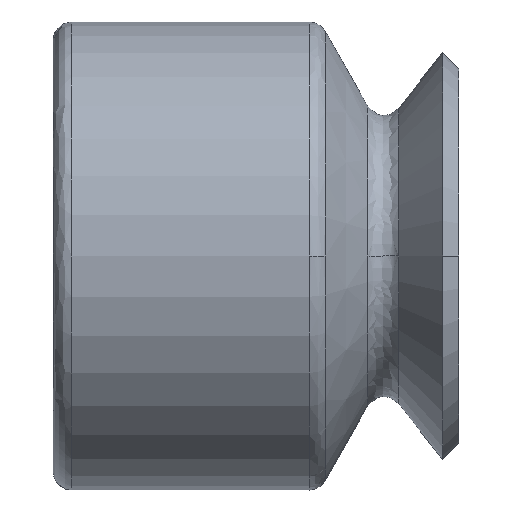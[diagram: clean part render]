
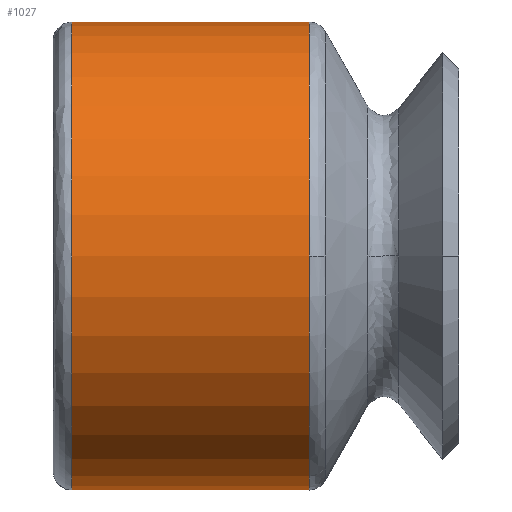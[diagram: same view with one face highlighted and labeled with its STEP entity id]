
A CAD part, left-side view. The second image highlights one B-rep face of the part: STEP entity #1027.
In plain terms, the highlighted cylindrical face has radius 3.75 mm (diameter 7.5 mm), a partial arc.
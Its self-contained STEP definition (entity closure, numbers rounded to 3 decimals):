
#16 = AXIS2_PLACEMENT_3D ( 'NONE', #626, #775, #463 ) ;
#84 = ORIENTED_EDGE ( 'NONE', *, *, #1182, .T. ) ;
#134 = CARTESIAN_POINT ( 'NONE',  ( 0., -4.1, 0. ) ) ;
#135 = ORIENTED_EDGE ( 'NONE', *, *, #710, .F. ) ;
#223 = DIRECTION ( 'NONE',  ( 0., 1., 0. ) ) ;
#230 = CARTESIAN_POINT ( 'NONE',  ( 0., -4.1, 3.75 ) ) ;
#278 = FACE_OUTER_BOUND ( 'NONE', #1361, .T. ) ;
#317 = VECTOR ( 'NONE', #726, 1000. ) ;
#323 = ORIENTED_EDGE ( 'NONE', *, *, #967, .F. ) ;
#349 = LINE ( 'NONE', #398, #317 ) ;
#394 = CARTESIAN_POINT ( 'NONE',  ( 0., -4.1, 3.75 ) ) ;
#398 = CARTESIAN_POINT ( 'NONE',  ( 0., -4.1, -3.75 ) ) ;
#407 = CYLINDRICAL_SURFACE ( 'NONE', #1271, 3.75 ) ;
#423 = VECTOR ( 'NONE', #223, 1000. ) ;
#430 = CARTESIAN_POINT ( 'NONE',  ( 0., -4.1, -3.75 ) ) ;
#441 = AXIS2_PLACEMENT_3D ( 'NONE', #951, #719, #982 ) ;
#452 = EDGE_CURVE ( 'NONE', #1058, #918, #1003, .T. ) ;
#463 = DIRECTION ( 'NONE',  ( -1., 0., 0. ) ) ;
#562 = VERTEX_POINT ( 'NONE', #942 ) ;
#574 = CIRCLE ( 'NONE', #628, 3.75 ) ;
#626 = CARTESIAN_POINT ( 'NONE',  ( 0., -0.3, 0. ) ) ;
#628 = AXIS2_PLACEMENT_3D ( 'NONE', #1257, #1283, #1071 ) ;
#637 = VERTEX_POINT ( 'NONE', #879 ) ;
#672 = DIRECTION ( 'NONE',  ( 0., 0., 1. ) ) ;
#710 = EDGE_CURVE ( 'NONE', #637, #562, #1198, .T. ) ;
#719 = DIRECTION ( 'NONE',  ( 0., -1., 0. ) ) ;
#726 = DIRECTION ( 'NONE',  ( 0., 1., 0. ) ) ;
#775 = DIRECTION ( 'NONE',  ( 0., 1., 0. ) ) ;
#819 = DIRECTION ( 'NONE',  ( 0., 1., 0. ) ) ;
#826 = CARTESIAN_POINT ( 'NONE',  ( -3.75, -4.1, 0. ) ) ;
#879 = CARTESIAN_POINT ( 'NONE',  ( 0., -0.3, -3.75 ) ) ;
#902 = ORIENTED_EDGE ( 'NONE', *, *, #452, .F. ) ;
#918 = VERTEX_POINT ( 'NONE', #430 ) ;
#942 = CARTESIAN_POINT ( 'NONE',  ( 0., -0.3, 3.75 ) ) ;
#951 = CARTESIAN_POINT ( 'NONE',  ( 0., -4.1, 0. ) ) ;
#967 = EDGE_CURVE ( 'NONE', #918, #637, #349, .T. ) ;
#982 = DIRECTION ( 'NONE',  ( 0., 0., -1. ) ) ;
#1003 = CIRCLE ( 'NONE', #441, 3.75 ) ;
#1027 = ADVANCED_FACE ( 'NONE', ( #278 ), #407, .T. ) ;
#1051 = LINE ( 'NONE', #230, #423 ) ;
#1058 = VERTEX_POINT ( 'NONE', #826 ) ;
#1071 = DIRECTION ( 'NONE',  ( 0., 0., -1. ) ) ;
#1077 = EDGE_CURVE ( 'NONE', #1222, #1058, #574, .T. ) ;
#1182 = EDGE_CURVE ( 'NONE', #1222, #562, #1051, .T. ) ;
#1198 = CIRCLE ( 'NONE', #16, 3.75 ) ;
#1222 = VERTEX_POINT ( 'NONE', #394 ) ;
#1257 = CARTESIAN_POINT ( 'NONE',  ( 0., -4.1, 0. ) ) ;
#1271 = AXIS2_PLACEMENT_3D ( 'NONE', #134, #819, #672 ) ;
#1283 = DIRECTION ( 'NONE',  ( 0., -1., 0. ) ) ;
#1361 = EDGE_LOOP ( 'NONE', ( #323, #902, #1430, #84, #135 ) ) ;
#1430 = ORIENTED_EDGE ( 'NONE', *, *, #1077, .F. ) ;
